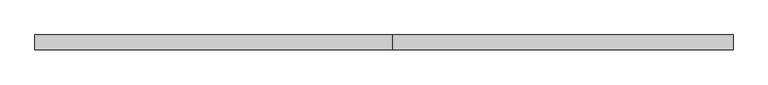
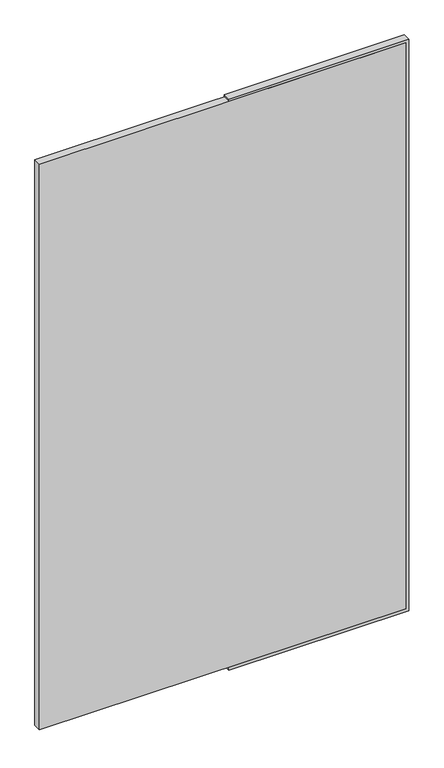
"""IFC4 building model written with IfcOpenShell, lengths in millimetres: plate geometry, Vitré."""

from ifc_helpers import new_model, si_unit, frame, origin, origin_with_axes, place, context, project, spatial, polyline, outline, extrude, source, transform, mapped, element, save


def plate_309249a5(model_context):
    return source(origin(), model_context, "Body", "SweptSolid", [
        extrude(outline(polyline([(-941.25, -20.0), (-941.25, 20.0), (923.875, 20.0), (923.875, -20.0), (-941.25, -20.0)])), frame((0.0, 0.0, 17.375), z_axis=(0.0, 0.0, 1.0), x_axis=(1.0, 0.0, 0.0)), (0.0, 0.0, 1.0), 3047.625),
        extrude(outline(polyline([(23.875, 20.0), (941.25, 20.0), (941.25, -20.0), (23.875, -20.0), (23.875, 20.0)])), origin_with_axes(), (0.0, 0.0, 1.0), 3077.375),
    ])


if __name__ == "__main__":
    model = new_model("IFC4")
    model_context = context("Model", 3, world=origin())
    ifc_project = project(units=[si_unit("LENGTHUNIT", "METRE", prefix="MILLI")], contexts=[model_context])
    site = spatial("IfcSite", under=ifc_project)
    building = spatial("IfcBuilding", under=site)
    placement = place(None, origin())
    plate_shape = plate_309249a5(model_context)
    element("IfcPlate", 1, ObjectType="Vitré", at=placement, inside=building, context=model_context, shape_type="MappedRepresentation", body=[
        mapped(plate_shape, transform((0.0, 0.0, 0.0), x_axis=(1.0, 0.0, 0.0), y_axis=(0.0, 1.0, 0.0), z_axis=(0.0, 0.0, 1.0))),
    ])
    save(model, "model.ifc")
